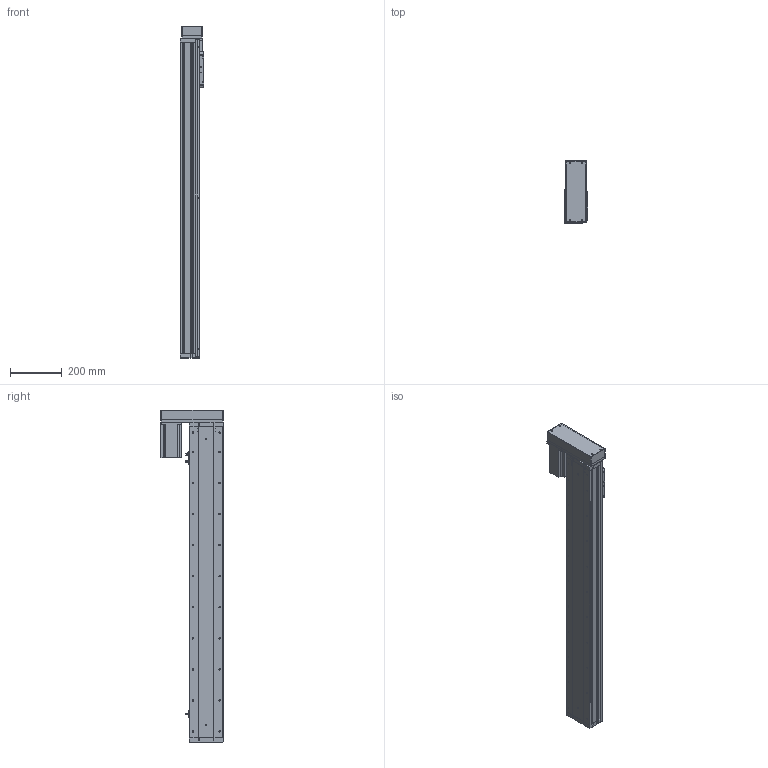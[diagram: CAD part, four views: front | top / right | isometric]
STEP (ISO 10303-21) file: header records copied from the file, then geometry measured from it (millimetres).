
FILE_DESCRIPTION (( 'STEP AP203' ), '1' );
FILE_NAME ('KSD130S-P2010-ML-CR-S1000.STEP', '2019-09-24T06:37:51', ( '微软用户' ), ( '微软中国' ), 'SwSTEP 2.0', 'SolidWorks 2014', '' );
FILE_SCHEMA (( 'CONFIG_CONTROL_DESIGN' ));
Length unit declared in the file: millimetre
Products named in the file (14): 130宽全封闭端盖丝杠; 130宽模组马达安装板连板左右折丝杆; 130宽全封闭马达安装板丝杠; 台达ECMA－C20807AS伺服电机; 130宽侧板全封闭-1000行程; 130宽模组保护罩左右折; 130宽滚珠螺姆安装板1; KSD130S-P2010-ML-CR-S1000; 130宽滚珠螺姆安装板1防护罩; 130宽盖板全封闭-1000行程; 130遵裔啣揤啣1; U倰嫖萇EEㄜSX672; 130宽底板全封闭丝杠-1000行程; 感应片130宽全封闭
Assembly tree (17 placements, depth 2):
  KSD130S-P2010-ML-CR-S1000
    130宽底板全封闭丝杠-1000行程
    130宽全封闭端盖丝杠
    130宽全封闭马达安装板丝杠
    130宽侧板全封闭-1000行程  x2
    130宽滚珠螺姆安装板1
    130宽滚珠螺姆安装板1防护罩
    130宽盖板全封闭-1000行程
    130遵裔啣揤啣1  x2
    U倰嫖萇EEㄜSX672  x3
    感应片130宽全封闭
    130宽模组马达安装板连板左右折丝杆
    台达ECMA－C20807AS伺服电机
    130宽模组保护罩左右折
Bounding box: 90 x 240 x 1284.5 mm (x, y, z)
Volume: 4556581.2 mm3; surface area: 1480823.1 mm2
Topology: 18 solids, 18 shells, 1562 faces, 4240 edges, 2647 vertices
Faces by surface type: cylinder 700, plane 611, cone 251
Entity records: 42073 total; most frequent: DIRECTION 7283, CARTESIAN_POINT 7107, ORIENTED_EDGE 6686, EDGE_CURVE 3343, AXIS2_PLACEMENT_3D 2639, VERTEX_POINT 2177, VECTOR 2005, LINE 2005
